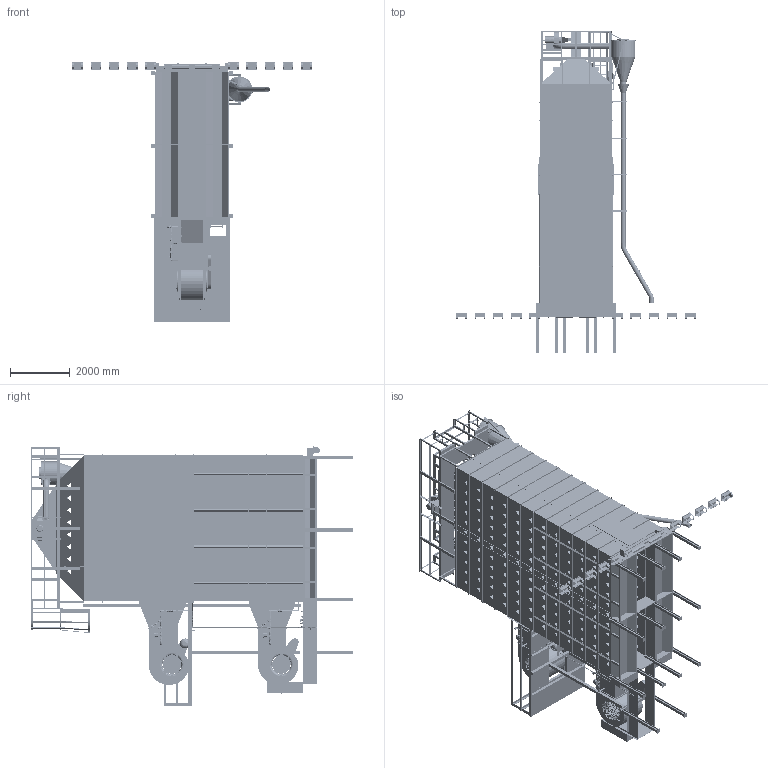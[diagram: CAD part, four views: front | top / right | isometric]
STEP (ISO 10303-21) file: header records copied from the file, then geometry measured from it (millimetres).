
FILE_DESCRIPTION(/* description */ ('PLAN AND ELEVATION VIEW FOR D16140 WITH ROOF & PRE-CLEANER'),/* implementation_level */ '2;1');
FILE_NAME(/* name */ 'C:\Engineering\Designs\Sales\Dryer\Workspaces\D16 All\D16140PC.stp',/* time_stamp */ '2025-01-06T16:50:46-06:00',/* author */ ('max.fleming'),/* organization */ (''),/* preprocessor_version */ 'ST-DEVELOPER v18.1',/* originating_system */ 'Autodesk Inventor 2022',/* authorisation */ '');
FILE_SCHEMA (('AUTOMOTIVE_DESIGN { 1 0 10303 214 3 1 1 }','TECHNICAL_DATA_PACKAGING'));
Products named in the file (40): D16140PC; 16FT FRAME; 8FT LHRH FRAME; 16FT ROOF GF; 8FTRoof GF LHRH; Tongue; 16FT BODY TIER; LH Body; RH Body; LH Body_MIR6; RH Body_MIR6; Outside Splice; Standard Size End Plenum Panels; Ladder 2' section; Trans & Blower; Belt Shield; Screen Guard; LP Fuel; Stiffeners; Platform; Platform Support 1-T; 1 Tier Vertical Support; 6'' CROSS AUGER; Leg Kit-02; LP Inlet; 16FT PRE CLEANER RH DIS; 16FT Pre Cleaner Grav Assy; Aspirator Blower CCW; Aspirator Blower; NEMA MOTOR 182T; 16FT FULL CATWALK W PRE CLEANER MOUNTS; Pre-Cleaner Cyclone; 16FT Aspirator 8in Pipe; 6in PIPE SLEEVE 11L; 6IN ELBOW; 6in PIPE 60L; PIPE SUPPORT; Ladder Cage; 6IN HANGER; Liquid Propane Pipe
Assembly tree (161 placements, depth 4):
  D16140PC
    16FT FRAME
      8FT LHRH FRAME  x2
    16FT ROOF GF
      8FTRoof GF LHRH  x2
    Tongue
    16FT BODY TIER  x12
      LH Body
      RH Body
      LH Body_MIR6
      RH Body_MIR6
      Outside Splice
    Leg Kit-02  x12
    Standard Size End Plenum Panels  x21
    Trans & Blower  x2
    Belt Shield  x2
    Screen Guard  x4
    LP Fuel  x2
    Stiffeners  x48
    Platform
    Platform Support 1-T
    1 Tier Vertical Support  x10
    LP Inlet
    16FT PRE CLEANER RH DIS
      16FT Pre Cleaner Grav Assy
      Aspirator Blower CCW
        Aspirator Blower
        NEMA MOTOR 182T
      16FT FULL CATWALK W PRE CLEANER MOUNTS
      Pre-Cleaner Cyclone
      16FT Aspirator 8in Pipe
    6in PIPE SLEEVE 11L
    6in PIPE 60L  x5
    6IN ELBOW  x2
    6IN HANGER  x5
    PIPE SUPPORT  x4
    Ladder Cage
    Liquid Propane Pipe  x6
  Ladder 2' section
  6'' CROSS AUGER
Bounding box: 8007.35 x 10777.94 x 8695.06 mm (x, y, z)
Volume: 64001109341.5 mm3; surface area: 949303300.2 mm2
Topology: 538 solids, 696 shells, 39352 faces, 101983 edges, 65196 vertices
Faces by surface type: plane 19095, cylinder 11297, bspline 3779, cone 3396, torus 1601, sphere 184
Full cylindrical faces by diameter (mm): 1 x10, 1.651 x6, 1.753 x6, 1.778 x12, 2.019 x4, 2.108 x2, 2.286 x24, 2.489 x2, 2.54 x4, 3.091 x288, 3.175 x5, 3.251 x20, 3.306 x288, 3.522 x2, 3.658 x28, 3.8 x16, 4 x384, 4.039 x20, 4.166 x256, 4.191 x4, 4.229 x2, 4.267 x2, 4.369 x8, 4.445 x8, 4.701 x592, 4.762 x16, 4.851 x8, 4.928 x32, 5.283 x2, 5.527 x20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
Entity records: 771638 total; most frequent: CARTESIAN_POINT 342042, ORIENTED_EDGE 89816, DIRECTION 80379, EDGE_CURVE 45048, VERTEX_POINT 28781, AXIS2_PLACEMENT_3D 27562, LINE 25255, VECTOR 25255
